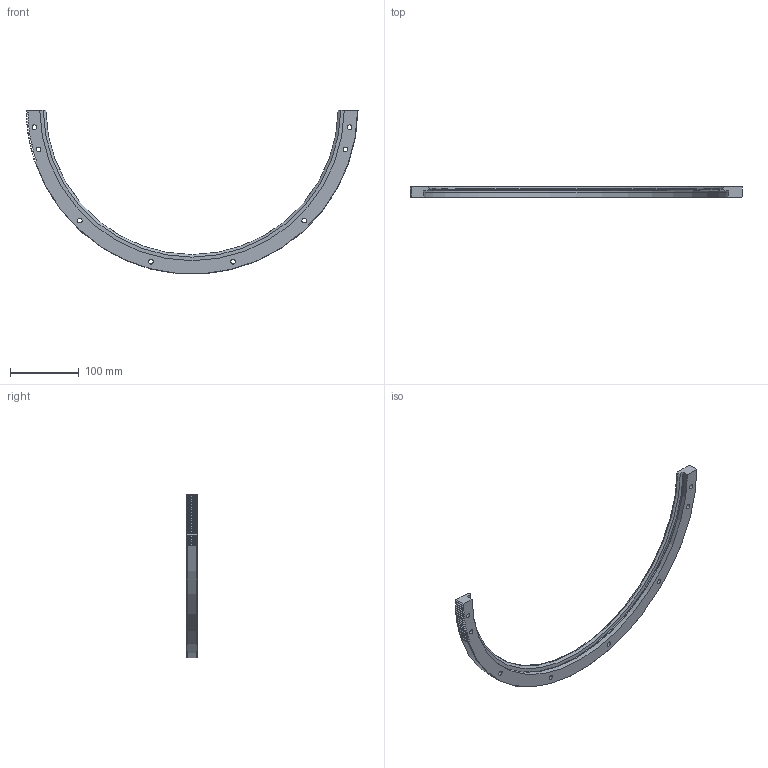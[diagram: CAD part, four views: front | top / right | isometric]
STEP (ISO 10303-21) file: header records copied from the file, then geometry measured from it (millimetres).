
FILE_DESCRIPTION( ( 'STEP AP203' ), '1' );
FILE_NAME( 'p:/temp/worker_31/temp/exporttempdir_5100_917_pWGKi/format_0/TRIM 482 R180 P .stp', '2021-09-17T07:50:09', ( 'License CC BY-ND 4.0' ), ( 'CADENAS' ), ' ', 'PARTsolutions', ' ' );
FILE_SCHEMA( ( 'CONFIG_CONTROL_DESIGN' ) );
Length unit declared in the file: millimetre
Products named in the file (1): _TRIM 482 R180 P 
Bounding box: 482.46 x 15.5 x 238.07 mm (x, y, z)
Volume: 242673.4 mm3; surface area: 65324.6 mm2
Topology: 1 solids, 1 shells, 153 faces, 429 edges, 286 vertices
Faces by surface type: cylinder 57, plane 53, cone 42, torus 1
Full cylindrical faces by diameter (mm): 6.8 x8, 11 x8
Entity records: 5075 total; most frequent: CARTESIAN_POINT 1123, ORIENTED_EDGE 826, DIRECTION 793, EDGE_CURVE 413, AXIS2_PLACEMENT_3D 312, VERTEX_POINT 286, EDGE_LOOP 193, FACE_OUTER_BOUND 169
